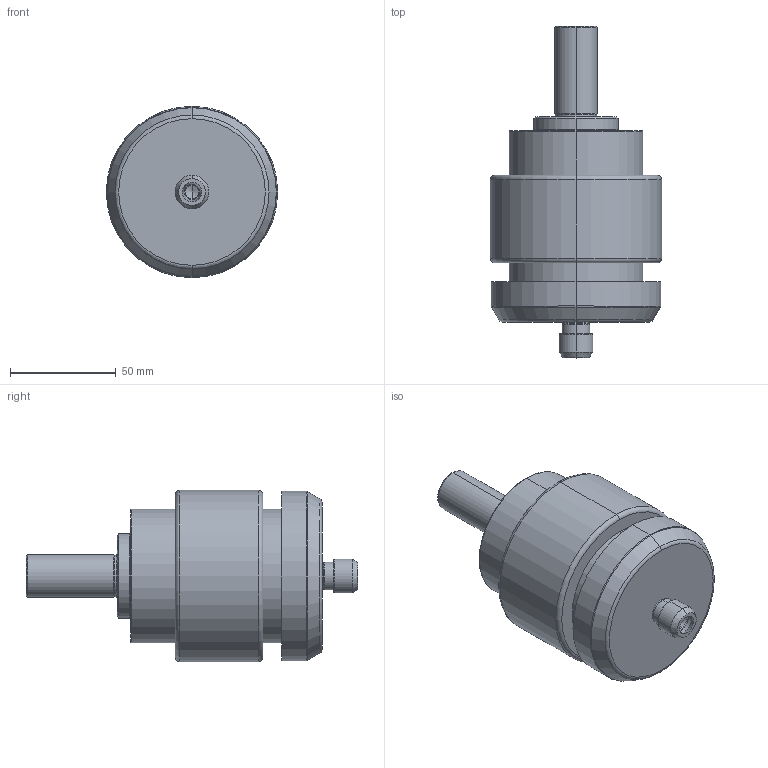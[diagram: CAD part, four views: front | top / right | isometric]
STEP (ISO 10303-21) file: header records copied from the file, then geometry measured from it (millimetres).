
FILE_DESCRIPTION (( 'STEP AP214' ), '1' );
FILE_NAME ('TJS-HPC -ST20-Light.STEP', '2024-08-08T06:32:06', ( '' ), ( '' ), 'SwSTEP 2.0', 'SolidWorks 2024', '' );
FILE_SCHEMA (( 'AUTOMOTIVE_DESIGN' ));
Length unit declared in the file: millimetre
Products named in the file (1): TJS-HPC -ST20-Light
Bounding box: 81 x 156.9 x 81 mm (x, y, z)
Volume: 416561 mm3; surface area: 41121.7 mm2
Topology: 1 solids, 1 shells, 85 faces, 172 edges, 96 vertices
Faces by surface type: cylinder 30, cone 28, torus 16, plane 11
Entity records: 2211 total; most frequent: DIRECTION 450, CARTESIAN_POINT 350, ORIENTED_EDGE 336, AXIS2_PLACEMENT_3D 196, EDGE_CURVE 168, CIRCLE 110, VERTEX_POINT 96, EDGE_LOOP 96
